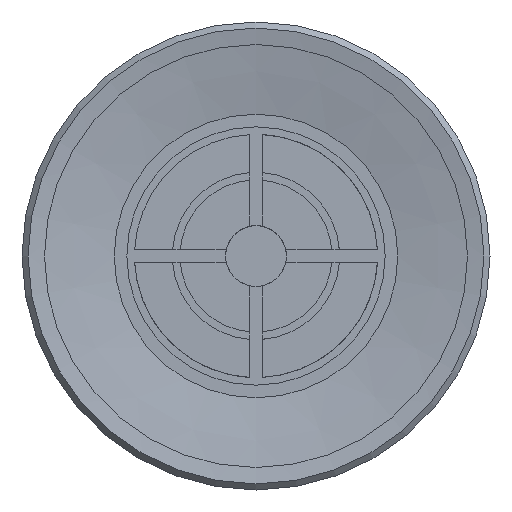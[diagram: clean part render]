
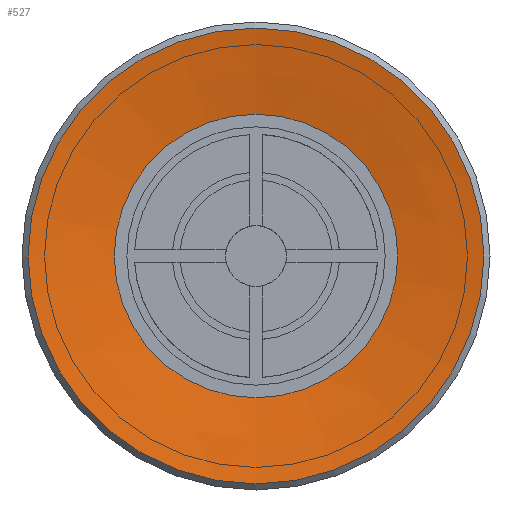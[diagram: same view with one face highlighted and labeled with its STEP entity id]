
A CAD part, front view. The second image highlights one B-rep face of the part: STEP entity #527.
In plain terms, the highlighted conical face has half-angle 80 degrees and reference radius 4.664 mm.
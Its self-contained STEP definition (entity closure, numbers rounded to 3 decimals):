
#527=ADVANCED_FACE('',(#857,#858),#859,.F.);
#857=FACE_BOUND('',#1212,.T.);
#858=FACE_OUTER_BOUND('',#1213,.T.);
#859=CONICAL_SURFACE('',#1214,4.664,1.396);
#1212=EDGE_LOOP('',(#2154));
#1213=EDGE_LOOP('',(#2155));
#1214=AXIS2_PLACEMENT_3D('',#2156,#2157,#2158);
#2154=ORIENTED_EDGE('',*,*,#2535,.F.);
#2155=ORIENTED_EDGE('',*,*,#2536,.T.);
#2156=CARTESIAN_POINT('',(0.0,0.5,0.0));
#2157=DIRECTION('',(-0.0,-1.0,0.));
#2158=DIRECTION('',(0.0,0.,-1.0));
#2535=EDGE_CURVE('',#3003,#3003,#3004,.T.);
#2536=EDGE_CURVE('',#3005,#3005,#3006,.T.);
#3003=VERTEX_POINT('',#3983);
#3004=CIRCLE('',#3984,4.664);
#3005=VERTEX_POINT('',#3985);
#3006=CIRCLE('',#3986,7.5);
#3983=CARTESIAN_POINT('',(0.0,0.5,-4.664));
#3984=AXIS2_PLACEMENT_3D('',#4438,#4439,#4440);
#3985=CARTESIAN_POINT('',(0.0,0.,-7.5));
#3986=AXIS2_PLACEMENT_3D('',#4441,#4442,#4443);
#4438=CARTESIAN_POINT('',(0.0,0.5,0.0));
#4439=DIRECTION('',(0.0,-1.0,0.));
#4440=DIRECTION('',(0.0,0.,-1.0));
#4441=CARTESIAN_POINT('',(0.0,0.0,0.0));
#4442=DIRECTION('',(0.0,-1.0,0.));
#4443=DIRECTION('',(0.0,0.,-1.0));
